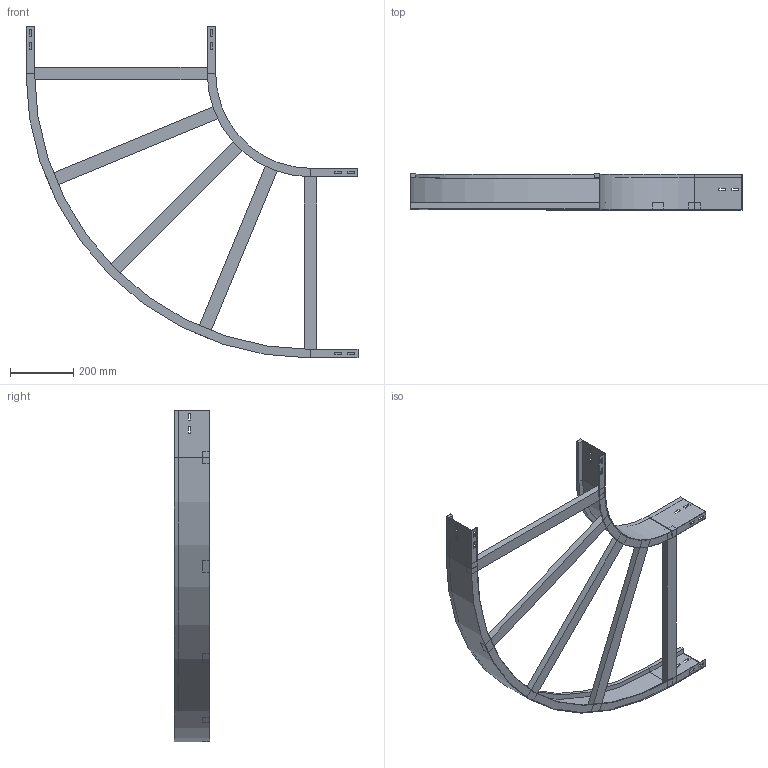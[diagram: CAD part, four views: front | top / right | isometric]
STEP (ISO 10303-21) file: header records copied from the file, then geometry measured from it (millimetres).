
FILE_DESCRIPTION (( 'STEP AP214' ), '1' );
FILE_NAME ('A2_10B3J600.step', '2025-02-21T15:24:47', ( '' ), ( '' ), 'SwSTEP 2.0', 'SolidWorks 2023', '' );
FILE_SCHEMA (( 'AUTOMOTIVE_DESIGN' ));
Length unit declared in the file: millimetre
Products named in the file (4): A2_10B3J600; A2_LONGH.ESTERNO 90°_H112.5_R300+600; TRAVERSINO_600; A2_LONGH.INTERNO 90°_H112.5_R300
Assembly tree (7 placements, depth 2):
  A2_10B3J600
    A2_LONGH.INTERNO 90°_H112.5_R300
    A2_LONGH.ESTERNO 90°_H112.5_R300+600
    TRAVERSINO_600  x5
Bounding box: 1050 x 112.5 x 1050 mm (x, y, z)
Volume: 3569346.3 mm3; surface area: 1140297.2 mm2
Topology: 7 solids, 7 shells, 146 faces, 364 edges, 232 vertices
Faces by surface type: plane 138, cylinder 8
Entity records: 3837 total; most frequent: CARTESIAN_POINT 648, ORIENTED_EDGE 632, DIRECTION 596, EDGE_CURVE 316, LINE 300, VECTOR 300, VERTEX_POINT 200, EDGE_LOOP 154
